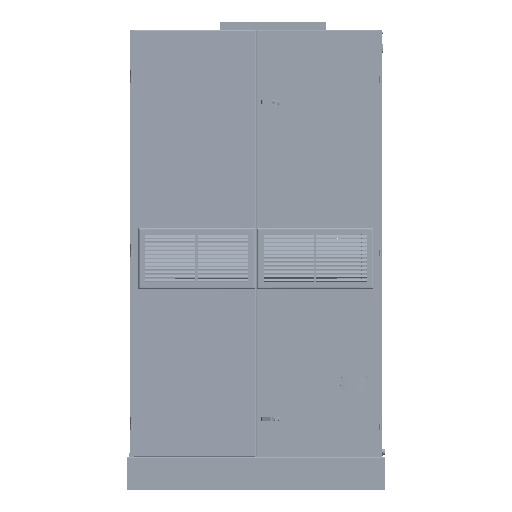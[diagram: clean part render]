
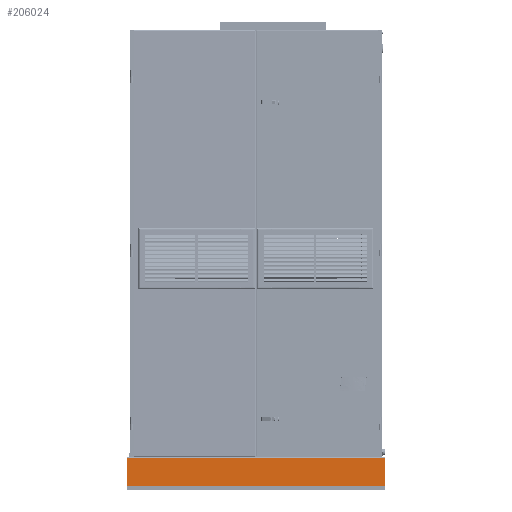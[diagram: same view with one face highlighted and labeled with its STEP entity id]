
A CAD part, top view. The second image highlights one B-rep face of the part: STEP entity #206024.
In plain terms, the highlighted planar face has unit normal (0, 0, 1).
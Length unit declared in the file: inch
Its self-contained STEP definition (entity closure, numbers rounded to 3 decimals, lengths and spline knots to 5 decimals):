
#1952 = VERTEX_POINT ( 'NONE', #225647 ) ;
#4597 = CARTESIAN_POINT ( 'NONE',  ( 48.875, 5.375, 0. ) ) ;
#20787 = ORIENTED_EDGE ( 'NONE', *, *, #60661, .T. ) ;
#22749 = CARTESIAN_POINT ( 'NONE',  ( 0., 0., 0. ) ) ;
#24057 = DIRECTION ( 'NONE',  ( 0., 0., -1. ) ) ;
#25173 = DIRECTION ( 'NONE',  ( -1., 0., 0. ) ) ;
#25429 = LINE ( 'NONE', #218658, #108602 ) ;
#28950 = CARTESIAN_POINT ( 'NONE',  ( 0., 0., 0. ) ) ;
#31673 = LINE ( 'NONE', #176220, #137330 ) ;
#48401 = ORIENTED_EDGE ( 'NONE', *, *, #121043, .T. ) ;
#48506 = EDGE_CURVE ( 'NONE', #151680, #1952, #187434, .T. ) ;
#49831 = DIRECTION ( 'NONE',  ( 1., 0., 0. ) ) ;
#49906 = ORIENTED_EDGE ( 'NONE', *, *, #48506, .T. ) ;
#50255 = DIRECTION ( 'NONE',  ( 0., 1., 0. ) ) ;
#60661 = EDGE_CURVE ( 'NONE', #1952, #137998, #31673, .T. ) ;
#75522 = VECTOR ( 'NONE', #49831, 39.37008 ) ;
#77572 = DIRECTION ( 'NONE',  ( -1., 0., 0. ) ) ;
#81618 = EDGE_LOOP ( 'NONE', ( #125444, #49906, #20787, #48401 ) ) ;
#101587 = AXIS2_PLACEMENT_3D ( 'NONE', #184828, #24057, #25173 ) ;
#108602 = VECTOR ( 'NONE', #77572, 39.37008 ) ;
#109409 = VERTEX_POINT ( 'NONE', #176485 ) ;
#121043 = EDGE_CURVE ( 'NONE', #137998, #109409, #25429, .T. ) ;
#125444 = ORIENTED_EDGE ( 'NONE', *, *, #150378, .T. ) ;
#137330 = VECTOR ( 'NONE', #50255, 39.37008 ) ;
#137998 = VERTEX_POINT ( 'NONE', #4597 ) ;
#143332 = PLANE ( 'NONE',  #101587 ) ;
#150378 = EDGE_CURVE ( 'NONE', #109409, #151680, #220616, .T. ) ;
#151680 = VERTEX_POINT ( 'NONE', #22749 ) ;
#176220 = CARTESIAN_POINT ( 'NONE',  ( 48.875, 0., 0. ) ) ;
#176485 = CARTESIAN_POINT ( 'NONE',  ( 0., 5.375, 0. ) ) ;
#184828 = CARTESIAN_POINT ( 'NONE',  ( 0., 0., 0. ) ) ;
#187434 = LINE ( 'NONE', #28950, #75522 ) ;
#191055 = VECTOR ( 'NONE', #203207, 39.37008 ) ;
#202079 = CARTESIAN_POINT ( 'NONE',  ( 0., 0., 0. ) ) ;
#203207 = DIRECTION ( 'NONE',  ( 0., -1., 0. ) ) ;
#206024 = ADVANCED_FACE ( 'NONE', ( #213853 ), #143332, .F. ) ;
#213853 = FACE_OUTER_BOUND ( 'NONE', #81618, .T. ) ;
#218658 = CARTESIAN_POINT ( 'NONE',  ( 0., 5.375, 0. ) ) ;
#220616 = LINE ( 'NONE', #202079, #191055 ) ;
#225647 = CARTESIAN_POINT ( 'NONE',  ( 48.875, 0., 0. ) ) ;
